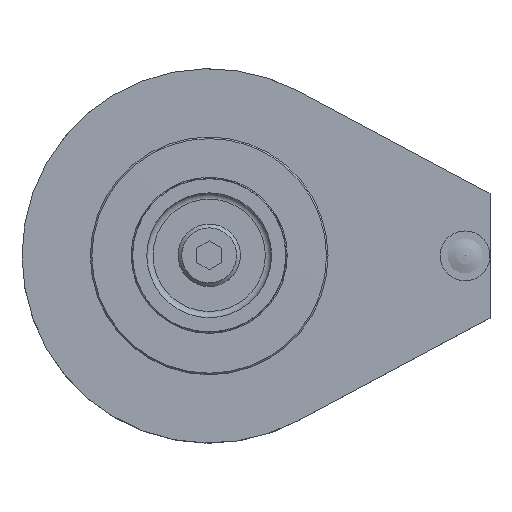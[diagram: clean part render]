
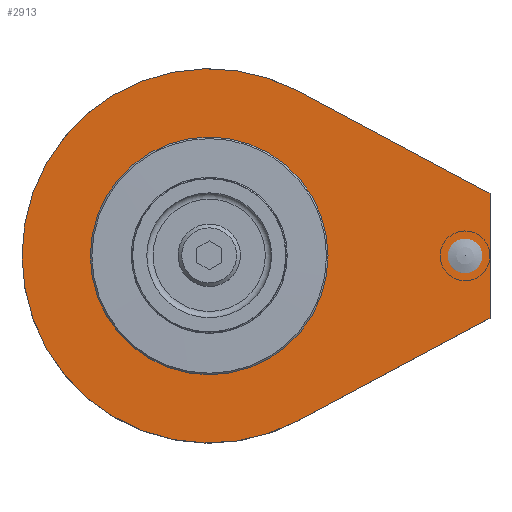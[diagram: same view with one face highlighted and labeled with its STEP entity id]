
A CAD part, top view. The second image highlights one B-rep face of the part: STEP entity #2913.
In plain terms, the highlighted planar face has unit normal (0, 0, 1).
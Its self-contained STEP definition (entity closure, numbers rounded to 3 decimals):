
#2528=PLANE('',#6477);
#2659=CIRCLE('',#6476,30.);
#2913=ADVANCED_FACE('AC_MATE1',(#3229),#2528,.F.);
#3229=FACE_OUTER_BOUND('',#3579,.T.);
#3579=EDGE_LOOP('',(#4945,#4946,#4947,#4948));
#3797=LINE('',#9570,#3967);
#3798=LINE('',#9573,#3968);
#3799=LINE('',#9575,#3969);
#3967=VECTOR('',#7415,1.);
#3968=VECTOR('',#7416,1.);
#3969=VECTOR('',#7417,1.);
#4945=ORIENTED_EDGE('',*,*,#5887,.F.);
#4946=ORIENTED_EDGE('',*,*,#5888,.F.);
#4947=ORIENTED_EDGE('',*,*,#5889,.T.);
#4948=ORIENTED_EDGE('',*,*,#5890,.T.);
#5369=VERTEX_POINT('',#9571);
#5370=VERTEX_POINT('',#9572);
#5371=VERTEX_POINT('',#9574);
#5372=VERTEX_POINT('',#9576);
#5887=EDGE_CURVE('',#5369,#5370,#3797,.T.);
#5888=EDGE_CURVE('',#5371,#5369,#3798,.T.);
#5889=EDGE_CURVE('',#5371,#5372,#3799,.T.);
#5890=EDGE_CURVE('',#5372,#5370,#2659,.T.);
#6476=AXIS2_PLACEMENT_3D('',#9577,#7418,#7419);
#6477=AXIS2_PLACEMENT_3D('',#9578,#7420,#7421);
#7415=DIRECTION('',(0.471,-0.882,0.));
#7416=DIRECTION('',(1.,0.,0.));
#7417=DIRECTION('',(-0.471,-0.882,0.));
#7418=DIRECTION('',(0.,0.,1.));
#7419=DIRECTION('',(1.,0.,0.));
#7420=DIRECTION('',(0.,0.,-1.));
#7421=DIRECTION('',(-1.,0.,0.));
#9570=CARTESIAN_POINT('',(10.,0.,4.763));
#9571=CARTESIAN_POINT('',(10.,0.,4.763));
#9572=CARTESIAN_POINT('',(26.471,-30.882,4.763));
#9573=CARTESIAN_POINT('',(0.,0.,4.763));
#9574=CARTESIAN_POINT('',(-10.,0.,4.763));
#9575=CARTESIAN_POINT('',(-10.,0.,4.763));
#9576=CARTESIAN_POINT('',(-26.471,-30.882,4.763));
#9577=CARTESIAN_POINT('',(0.,-45.,4.763));
#9578=CARTESIAN_POINT('',(0.,-45.,4.763));
